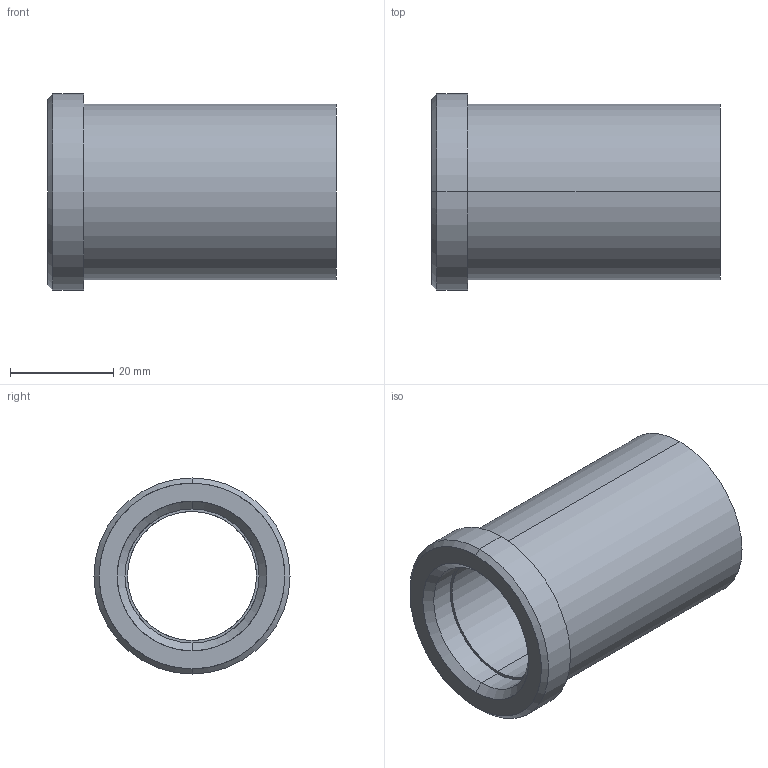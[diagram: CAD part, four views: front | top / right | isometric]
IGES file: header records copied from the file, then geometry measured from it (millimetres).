
Start section: START RECORD GO HERE.
Global section: file name: 353-25X56.igs; native system: DASSAULT SYSTEMES CATIA V5 R20 - www.3ds.com; preprocessor: CATIA Version 5 Release 20 ; author: Utente; organization: NB04-ASUS; date: 20210512.204509; units: millimetre
Bounding box: 56 x 38 x 38 mm (x, y, z)
Surface area: 11567.4 mm2 (no closed solid volume)
Topology: 0 solids, 0 shells, 18 faces, 116 edges, 116 vertices
Faces by surface type: revolution 14, plane 4
